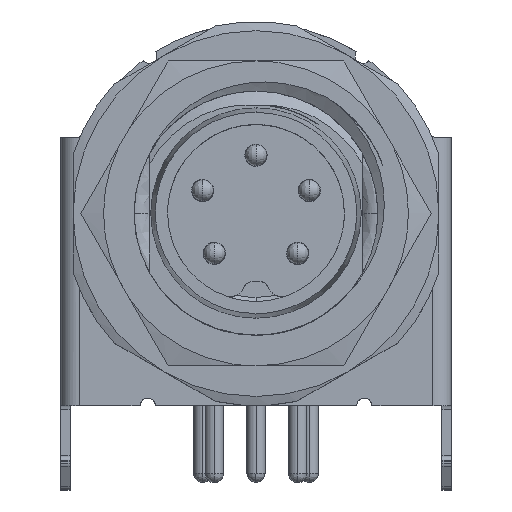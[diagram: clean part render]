
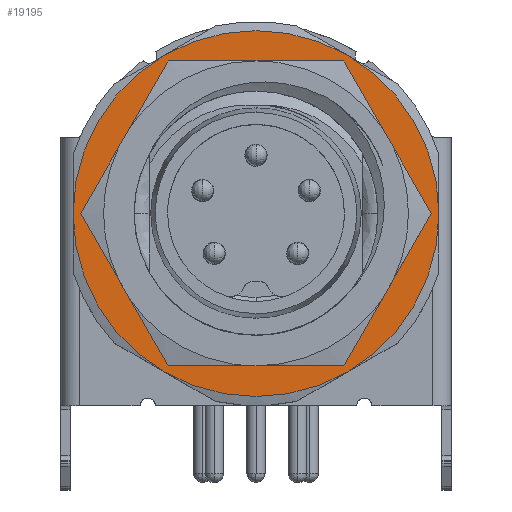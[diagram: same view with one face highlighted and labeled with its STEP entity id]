
A CAD part, top view. The second image highlights one B-rep face of the part: STEP entity #19195.
In plain terms, the highlighted planar face has unit normal (0, 0, 1).
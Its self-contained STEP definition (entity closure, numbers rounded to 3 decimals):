
#59 =( BOUNDED_CURVE ( )  B_SPLINE_CURVE ( 3, ( #10188, #8627, #13194, #21904 ),
 .UNSPECIFIED., .F., .T. ) 
 B_SPLINE_CURVE_WITH_KNOTS ( ( 4, 4 ),
 ( 0., 1. ),
 .UNSPECIFIED. ) 
 CURVE ( )  GEOMETRIC_REPRESENTATION_ITEM ( )  RATIONAL_B_SPLINE_CURVE ( ( 1., 0.593, 0.593, 1. ) ) 
 REPRESENTATION_ITEM ( '' )  );
#102 = CARTESIAN_POINT ( 'NONE',  ( 0., 0., -12. ) ) ;
#778 = VERTEX_POINT ( 'NONE', #14551 ) ;
#831 = AXIS2_PLACEMENT_3D ( 'NONE', #20035, #21177, #9344 ) ;
#888 = LINE ( 'NONE', #5764, #8139 ) ;
#1293 = EDGE_CURVE ( 'NONE', #21874, #12590, #888, .T. ) ;
#1392 = DIRECTION ( 'NONE',  ( 0., 1., 0. ) ) ;
#1893 = FACE_OUTER_BOUND ( 'NONE', #10200, .T. ) ;
#2495 = CARTESIAN_POINT ( 'NONE',  ( -3.5, 0., -12. ) ) ;
#2868 = VERTEX_POINT ( 'NONE', #20564 ) ;
#3330 = EDGE_LOOP ( 'NONE', ( #10605, #16850, #16875, #17982 ) ) ;
#3669 = DIRECTION ( 'NONE',  ( 0., 0., -1. ) ) ;
#4399 = ORIENTED_EDGE ( 'NONE', *, *, #20629, .F. ) ;
#4682 = ORIENTED_EDGE ( 'NONE', *, *, #19898, .F. ) ;
#4783 = CARTESIAN_POINT ( 'NONE',  ( 1.968, -5.104, -12. ) ) ;
#4850 = DIRECTION ( 'NONE',  ( 0., 0., -1. ) ) ;
#4956 = CARTESIAN_POINT ( 'NONE',  ( 0., 0., -12. ) ) ;
#5018 = CIRCLE ( 'NONE', #12523, 6. ) ;
#5109 = CARTESIAN_POINT ( 'NONE',  ( 3.5, -1.48, -12. ) ) ;
#5205 = CARTESIAN_POINT ( 'NONE',  ( 0., 0., -12. ) ) ;
#5370 = EDGE_CURVE ( 'NONE', #16029, #2868, #16025, .T. ) ;
#5562 = DIRECTION ( 'NONE',  ( -1., 0., 0. ) ) ;
#5764 = CARTESIAN_POINT ( 'NONE',  ( 3.5, 0., -12. ) ) ;
#6464 = CARTESIAN_POINT ( 'NONE',  ( -3., -5.196, -12. ) ) ;
#6771 = DIRECTION ( 'NONE',  ( -1., 0., 0. ) ) ;
#6856 = CIRCLE ( 'NONE', #10041, 6. ) ;
#7139 = ORIENTED_EDGE ( 'NONE', *, *, #11565, .F. ) ;
#7205 = AXIS2_PLACEMENT_3D ( 'NONE', #17550, #17435, #5562 ) ;
#8139 = VECTOR ( 'NONE', #1392, 1000. ) ;
#8283 = CIRCLE ( 'NONE', #7205, 6. ) ;
#8303 = DIRECTION ( 'NONE',  ( 0., 0., -1. ) ) ;
#8462 = EDGE_CURVE ( 'NONE', #2868, #21874, #16796, .T. ) ;
#8573 = CIRCLE ( 'NONE', #14258, 6. ) ;
#8627 = CARTESIAN_POINT ( 'NONE',  ( 1.968, 5.104, -12. ) ) ;
#9254 = DIRECTION ( 'NONE',  ( 0., -1., 0. ) ) ;
#9344 = DIRECTION ( 'NONE',  ( -1., 0., 0. ) ) ;
#9939 = AXIS2_PLACEMENT_3D ( 'NONE', #5205, #3669, #13762 ) ;
#9963 = CARTESIAN_POINT ( 'NONE',  ( 3.5, -1.48, -12. ) ) ;
#10041 = AXIS2_PLACEMENT_3D ( 'NONE', #4956, #4850, #16831 ) ;
#10188 = CARTESIAN_POINT ( 'NONE',  ( 3.5, 1.48, -12. ) ) ;
#10200 = EDGE_LOOP ( 'NONE', ( #4682, #7139, #14076, #4399, #15854, #11563 ) ) ;
#10336 = CARTESIAN_POINT ( 'NONE',  ( -1.968, -5.104, -12. ) ) ;
#10439 = DIRECTION ( 'NONE',  ( -1., 0., 0. ) ) ;
#10605 = ORIENTED_EDGE ( 'NONE', *, *, #8462, .F. ) ;
#11563 = ORIENTED_EDGE ( 'NONE', *, *, #20993, .F. ) ;
#11565 = EDGE_CURVE ( 'NONE', #15269, #12673, #13841, .T. ) ;
#11586 = CARTESIAN_POINT ( 'NONE',  ( -3.5, 1.48, -12. ) ) ;
#12083 = VERTEX_POINT ( 'NONE', #13105 ) ;
#12517 = CARTESIAN_POINT ( 'NONE',  ( -3., 5.196, -12. ) ) ;
#12523 = AXIS2_PLACEMENT_3D ( 'NONE', #16949, #8303, #16624 ) ;
#12590 = VERTEX_POINT ( 'NONE', #17913 ) ;
#12673 = VERTEX_POINT ( 'NONE', #6464 ) ;
#13105 = CARTESIAN_POINT ( 'NONE',  ( 3., 5.196, -12. ) ) ;
#13194 = CARTESIAN_POINT ( 'NONE',  ( -1.968, 5.104, -12. ) ) ;
#13448 = CARTESIAN_POINT ( 'NONE',  ( -3.5, -1.48, -12. ) ) ;
#13663 = FACE_BOUND ( 'NONE', #3330, .T. ) ;
#13762 = DIRECTION ( 'NONE',  ( -1., 0., 0. ) ) ;
#13841 = CIRCLE ( 'NONE', #9939, 6. ) ;
#13928 = AXIS2_PLACEMENT_3D ( 'NONE', #14596, #15761, #10439 ) ;
#14076 = ORIENTED_EDGE ( 'NONE', *, *, #14312, .F. ) ;
#14258 = AXIS2_PLACEMENT_3D ( 'NONE', #102, #15215, #6771 ) ;
#14312 = EDGE_CURVE ( 'NONE', #14410, #15269, #8573, .T. ) ;
#14343 = EDGE_CURVE ( 'NONE', #15451, #12083, #5018, .T. ) ;
#14410 = VERTEX_POINT ( 'NONE', #20805 ) ;
#14551 = CARTESIAN_POINT ( 'NONE',  ( -6., 0., -12. ) ) ;
#14596 = CARTESIAN_POINT ( 'NONE',  ( 0., 0., -12. ) ) ;
#14870 = CARTESIAN_POINT ( 'NONE',  ( 3., -5.196, -12. ) ) ;
#15215 = DIRECTION ( 'NONE',  ( 0., 0., -1. ) ) ;
#15269 = VERTEX_POINT ( 'NONE', #14870 ) ;
#15451 = VERTEX_POINT ( 'NONE', #12517 ) ;
#15761 = DIRECTION ( 'NONE',  ( 0., 0., -1. ) ) ;
#15854 = ORIENTED_EDGE ( 'NONE', *, *, #14343, .F. ) ;
#16025 = LINE ( 'NONE', #2495, #19838 ) ;
#16029 = VERTEX_POINT ( 'NONE', #11586 ) ;
#16624 = DIRECTION ( 'NONE',  ( -1., 0., 0. ) ) ;
#16796 =( BOUNDED_CURVE ( )  B_SPLINE_CURVE ( 3, ( #13448, #10336, #4783, #5109 ),
 .UNSPECIFIED., .F., .F. ) 
 B_SPLINE_CURVE_WITH_KNOTS ( ( 4, 4 ),
 ( 0., 1. ),
 .UNSPECIFIED. ) 
 CURVE ( )  GEOMETRIC_REPRESENTATION_ITEM ( )  RATIONAL_B_SPLINE_CURVE ( ( 1., 0.593, 0.593, 1. ) ) 
 REPRESENTATION_ITEM ( '' )  );
#16831 = DIRECTION ( 'NONE',  ( -1., 0., 0. ) ) ;
#16850 = ORIENTED_EDGE ( 'NONE', *, *, #5370, .F. ) ;
#16875 = ORIENTED_EDGE ( 'NONE', *, *, #21897, .F. ) ;
#16949 = CARTESIAN_POINT ( 'NONE',  ( 0., 0., -12. ) ) ;
#17435 = DIRECTION ( 'NONE',  ( 0., 0., -1. ) ) ;
#17550 = CARTESIAN_POINT ( 'NONE',  ( 0., 0., -12. ) ) ;
#17842 = CIRCLE ( 'NONE', #831, 6. ) ;
#17913 = CARTESIAN_POINT ( 'NONE',  ( 3.5, 1.48, -12. ) ) ;
#17982 = ORIENTED_EDGE ( 'NONE', *, *, #1293, .F. ) ;
#19195 = ADVANCED_FACE ( 'NONE', ( #13663, #1893 ), #20395, .F. ) ;
#19838 = VECTOR ( 'NONE', #9254, 1000. ) ;
#19898 = EDGE_CURVE ( 'NONE', #12673, #778, #17842, .T. ) ;
#20035 = CARTESIAN_POINT ( 'NONE',  ( 0., 0., -12. ) ) ;
#20395 = PLANE ( 'NONE',  #13928 ) ;
#20564 = CARTESIAN_POINT ( 'NONE',  ( -3.5, -1.48, -12. ) ) ;
#20629 = EDGE_CURVE ( 'NONE', #12083, #14410, #8283, .T. ) ;
#20805 = CARTESIAN_POINT ( 'NONE',  ( 6., 0., -12. ) ) ;
#20993 = EDGE_CURVE ( 'NONE', #778, #15451, #6856, .T. ) ;
#21177 = DIRECTION ( 'NONE',  ( 0., 0., -1. ) ) ;
#21874 = VERTEX_POINT ( 'NONE', #9963 ) ;
#21897 = EDGE_CURVE ( 'NONE', #12590, #16029, #59, .T. ) ;
#21904 = CARTESIAN_POINT ( 'NONE',  ( -3.5, 1.48, -12. ) ) ;
